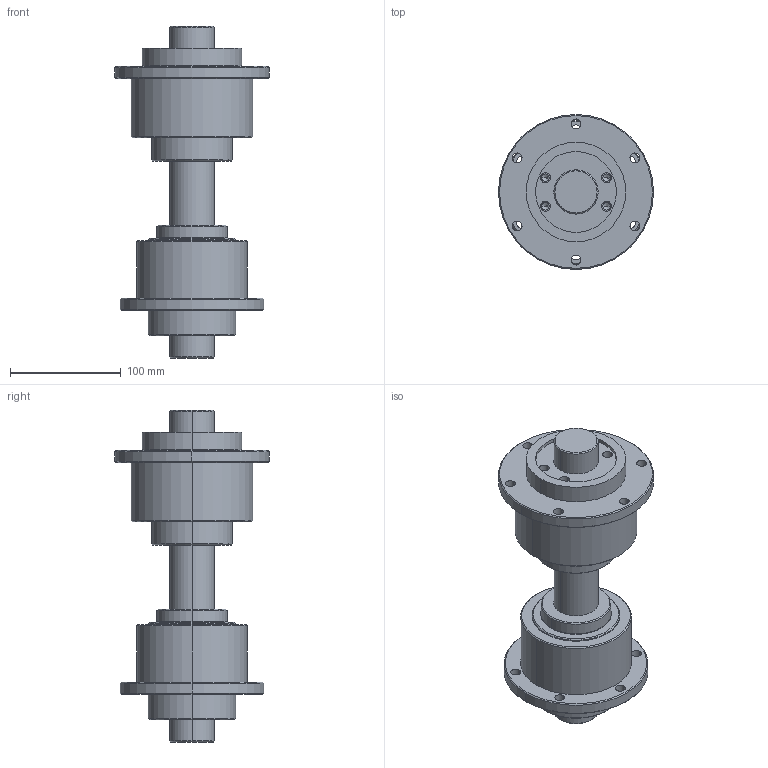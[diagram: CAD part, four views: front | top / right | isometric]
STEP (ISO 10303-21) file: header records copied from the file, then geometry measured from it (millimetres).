
FILE_DESCRIPTION (( 'STEP AP203' ), '1' );
FILE_NAME ('RBBY4040.STEP', '2014-11-13T08:55:34', ( '' ), ( '' ), 'SwSTEP 2.0', 'SolidWorks 2014', '' );
FILE_SCHEMA (( 'CONFIG_CONTROL_DESIGN' ));
Length unit declared in the file: millimetre
Products named in the file (4): RFBY4040; RLBF40; RBBY4040; SC40
Assembly tree (3 placements, depth 2):
  RBBY4040
    SC40
    RFBY4040
    RLBF40
Bounding box: 140 x 140 x 300 mm (x, y, z)
Volume: 1680106.3 mm3; surface area: 205313.8 mm2
Topology: 5 solids, 5 shells, 184 faces, 436 edges, 266 vertices
Faces by surface type: cylinder 116, cone 44, plane 24
Entity records: 5718 total; most frequent: DIRECTION 1052, CARTESIAN_POINT 872, ORIENTED_EDGE 832, AXIS2_PLACEMENT_3D 446, EDGE_CURVE 416, VERTEX_POINT 266, CIRCLE 256, EDGE_LOOP 240
